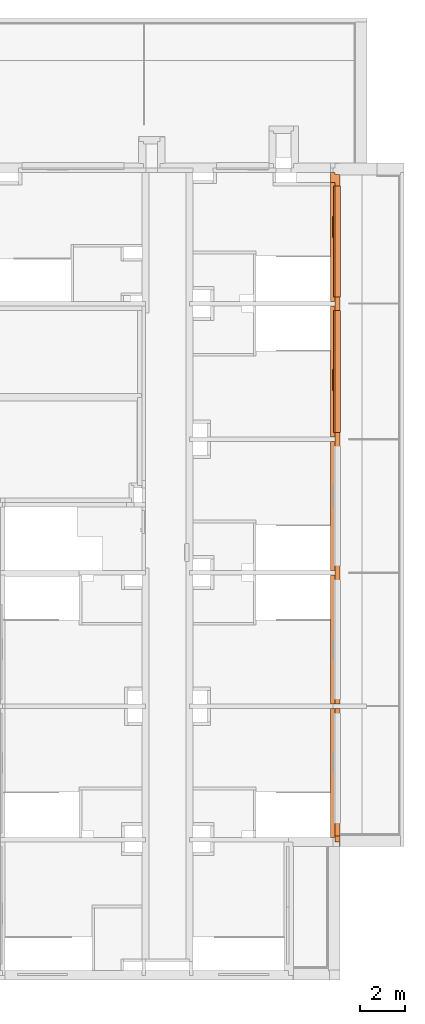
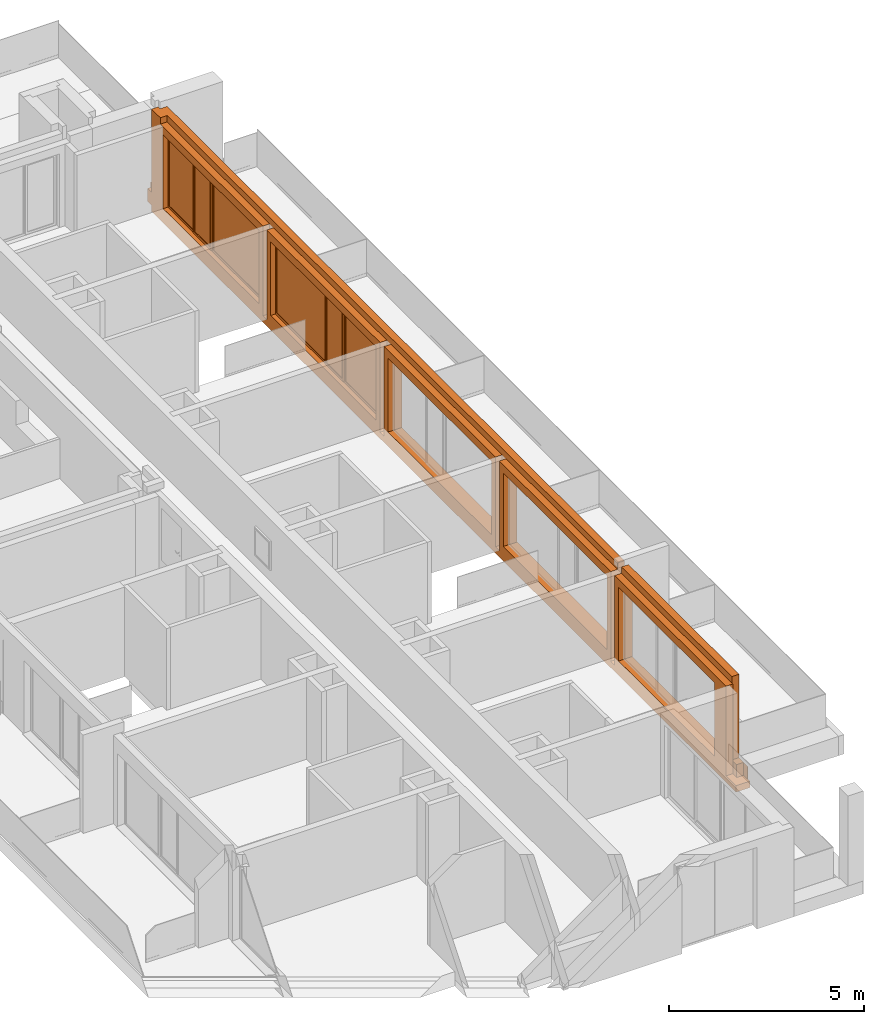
# One storey, part 12 of 30: 3 proxies, 5 openings.
"""IFC2X3 building model written with IfcOpenShell, lengths in millimetres."""

import ifcopenshell
import ifcopenshell.guid

model = None  # the IFC model being written
_history = None  # IfcOwnerHistory: only IFC2X3 demands one
_inside = {}  # id of a spatial element -> (the spatial element, [elements in it])
_under = {}  # id of a project, library or spatial element -> (it, [spatial elements below it])
_declared = {}  # id of a project -> (the project, [libraries it declares])
_typed = {}  # id of a type object -> (the type object, [elements of that type])
_made_of = {}  # id of a material, layer set ... -> (it, [elements and type objects made of it])


def new_model(schema):
    """Start an empty IFC model of exactly this schema.

    Asked for "IFC4X3", IfcOpenShell would pick the latest addendum, in which some entities
    have other attributes; the version numbers below select the first issue.
    IFC2X3 requires an IfcOwnerHistory on every rooted entity: one is made here for all.
    """
    global model, _history
    if schema == "IFC4X3":
        model = ifcopenshell.file(schema_version=(4, 3, 0, 0))
    else:
        model = ifcopenshell.file(schema=schema)
    _inside.clear()
    _under.clear()
    _declared.clear()
    _typed.clear()
    _made_of.clear()
    _history = None
    if model.schema == "IFC2X3":
        org = make("IfcOrganization", Name="unknown")
        user = make(
            "IfcPersonAndOrganization",
            ThePerson=make("IfcPerson", FamilyName="unknown"),
            TheOrganization=org,
        )
        app = make(
            "IfcApplication",
            ApplicationDeveloper=org,
            Version="unknown",
            ApplicationFullName="unknown",
            ApplicationIdentifier="unknown",
        )
        _history = make(
            "IfcOwnerHistory",
            OwningUser=user,
            OwningApplication=app,
            ChangeAction="ADDED",
            CreationDate=0,
        )
    return model


def make(cls, **values):
    """One entity of the class cls with the attributes given. An attribute that is None is left unset."""
    return model.create_entity(
        cls, **{name: value for name, value in values.items() if value is not None}
    )


def entity(cls, *values):
    """Any entity or typed value of the class cls, its attributes in the order of the schema. None: left unset."""
    e = model.create_entity(cls)
    for i, value in enumerate(values):
        if value is not None:
            e[i] = value
    return e


def rooted(cls, **values):
    """An entity with a GlobalId (a new one), such as an element, a storey or a relation."""
    return make(cls, GlobalId=ifcopenshell.guid.new(), OwnerHistory=_history, **values)


def si_unit(unit_type, name, prefix=None):
    """IfcSIUnit, for example si_unit("LENGTHUNIT", "METRE", prefix="MILLI")."""
    return make("IfcSIUnit", UnitType=unit_type, Prefix=prefix, Name=name)


def converted_unit(unit_type, name, factor, base, dimensions=None, offset=None):
    """IfcConversionBasedUnit, such as the inch: factor (a typed value) times the base unit."""
    return make(
        "IfcConversionBasedUnit"
        if offset is None
        else "IfcConversionBasedUnitWithOffset",
        ConversionOffset=offset,
        Dimensions=None
        if dimensions is None
        else entity("IfcDimensionalExponents", *dimensions),
        UnitType=unit_type,
        Name=name,
        ConversionFactor=make(
            "IfcMeasureWithUnit", ValueComponent=factor, UnitComponent=base
        ),
    )


def derived_unit(unit_type, elements):
    """IfcDerivedUnit: a product of units, each with its exponent."""
    return make(
        "IfcDerivedUnit",
        Elements=[
            make("IfcDerivedUnitElement", Unit=unit, Exponent=power)
            for unit, power in elements
        ],
        UnitType=unit_type,
    )


def money_unit(currency):
    """IfcMonetaryUnit."""
    return make("IfcMonetaryUnit", Currency=currency)


def assignment(units):
    """IfcUnitAssignment: the units of a project."""
    return None if units is None else make("IfcUnitAssignment", Units=units)


def point(xyz):
    """IfcCartesianPoint."""
    return None if xyz is None else make("IfcCartesianPoint", Coordinates=xyz)


def direction(xyz):
    """IfcDirection."""
    return None if xyz is None else make("IfcDirection", DirectionRatios=xyz)


def frame(location, z_axis=None, x_axis=None):
    """IfcAxis2Placement3D, a coordinate frame: its origin and axes. An axis left out is left unset."""
    return make(
        "IfcAxis2Placement3D",
        Location=point(location),
        Axis=direction(z_axis),
        RefDirection=direction(x_axis),
    )


def frame_2d(location, x_axis=None):
    """IfcAxis2Placement2D, a coordinate frame in the plane: its origin and x axis."""
    return make(
        "IfcAxis2Placement2D", Location=point(location), RefDirection=direction(x_axis)
    )


def origin_with_axes():
    """The frame at (0, 0, 0) with the z axis (0, 0, 1) and the x axis (1, 0, 0) written out."""
    return frame((0.0, 0.0, 0.0), z_axis=(0.0, 0.0, 1.0), x_axis=(1.0, 0.0, 0.0))


def origin_2d_with_axis():
    """The frame at (0, 0) in the plane with the x axis (1, 0) written out."""
    return frame_2d((0.0, 0.0), x_axis=(1.0, 0.0))


def place(relative_to, where):
    """IfcLocalPlacement: puts the frame where relative to a parent placement (None: the world)."""
    return make(
        "IfcLocalPlacement", PlacementRelTo=relative_to, RelativePlacement=where
    )


def context(
    kind, dimensions, precision=None, world=None, true_north=None, identifier=None
):
    """IfcGeometricRepresentationContext, for example the 3D "Model" context."""
    return make(
        "IfcGeometricRepresentationContext",
        ContextIdentifier=identifier,
        ContextType=kind,
        CoordinateSpaceDimension=dimensions,
        Precision=precision,
        WorldCoordinateSystem=world,
        TrueNorth=true_north,
    )


def subcontext(parent, identifier, kind, view, scale=None):
    """IfcGeometricRepresentationSubContext, for example "Body" below "Model"."""
    return make(
        "IfcGeometricRepresentationSubContext",
        ContextIdentifier=identifier,
        ContextType=kind,
        ParentContext=parent,
        TargetScale=scale,
        TargetView=view,
    )


def project(units=None, contexts=None):
    """IfcProject with its units and contexts."""
    return rooted(
        "IfcProject",
        Name="project",
        RepresentationContexts=contexts,
        UnitsInContext=assignment(units),
    )


def spatial(cls, under=None, at=None, **own):
    """A site, building, storey or space (cls), placed at a placement, below another one or the project."""
    s = rooted(cls, ObjectPlacement=at, **own)
    if under is not None:
        _under.setdefault(under.id(), (under, []))[1].append(s)
    return s


def profile(cls, at=None, kind="AREA", **sizes):
    """A parametric profile (cls). Its sizes go by their IFC names, for example OverallWidth=200.0."""
    return make(cls, ProfileType=kind, Position=at, **sizes)


def rectangle(**sizes):
    """IfcRectangleProfileDef."""
    return profile("IfcRectangleProfileDef", **sizes)


def extrude(swept, where, along, depth):
    """IfcExtrudedAreaSolid: the profile swept, set in the frame where, extruded along a direction by depth."""
    return make(
        "IfcExtrudedAreaSolid",
        SweptArea=swept,
        Position=where,
        ExtrudedDirection=direction(along),
        Depth=depth,
    )


def faces_of(points, faces, orient=None, outer=None):
    """IfcFace entities. A face is a list of loops; a loop is a list of indices into points, from 0.

    orient and outer hold one flag for each loop. By default every Orientation is true, the
    first loop of a face is its IfcFaceOuterBound and the others are IfcFaceBound.
    """
    made = []
    for i, loops in enumerate(faces):
        bounds = []
        for j, loop in enumerate(loops):
            is_outer = j == 0 if outer is None else outer[i][j]
            bounds.append(
                make(
                    "IfcFaceOuterBound" if is_outer else "IfcFaceBound",
                    Bound=make("IfcPolyLoop", Polygon=[points[k] for k in loop]),
                    Orientation=True if orient is None else orient[i][j],
                )
            )
        made.append(make("IfcFace", Bounds=bounds))
    return made


def open_shell(faces, orient=None, outer=None):
    """The faces of one IfcOpenShell. surface_model builds it on its shared points."""
    return ("IfcOpenShell", faces, orient, outer)


def faceted_brep(points, faces, orient=None, outer=None, voids=None):
    """IfcFacetedBrep: a solid bounded by flat faces; with voids (closed shells), ...WithVoids."""
    shared = [point(p) for p in points]
    hull = make("IfcClosedShell", CfsFaces=faces_of(shared, faces, orient, outer))
    if voids is None:
        return make("IfcFacetedBrep", Outer=hull)
    return make(
        "IfcFacetedBrepWithVoids",
        Outer=hull,
        Voids=[
            make(cls, CfsFaces=faces_of(shared, fs, o, b)) for cls, fs, o, b in voids
        ],
    )


def surface_model(cls, points, shells):
    """IfcFaceBasedSurfaceModel or IfcShellBasedSurfaceModel (cls): surfaces that need not close."""
    shared = [point(p) for p in points]
    made = [make(c, CfsFaces=faces_of(shared, fs, o, b)) for c, fs, o, b in shells]
    if cls == "IfcFaceBasedSurfaceModel":
        return make(cls, FbsmFaces=made)
    return make(cls, SbsmBoundary=made)


def shape(context_of_items, identifier, shape_type, items):
    """IfcShapeRepresentation: the items that make up one representation, for example the "Body"."""
    return make(
        "IfcShapeRepresentation",
        ContextOfItems=context_of_items,
        RepresentationIdentifier=identifier,
        RepresentationType=shape_type,
        Items=items,
    )


def material(Name=None, Category=None):
    """IfcMaterial."""
    return make("IfcMaterial", Name=Name, Category=Category)


def material_list(materials):
    """IfcMaterialList."""
    return make("IfcMaterialList", Materials=materials)


def made_of(thing, what):
    """Note that an element or type object is made of a material, layer set ...; save() writes the relation."""
    if what is not None:
        _made_of.setdefault(what.id(), (what, []))[1].append(thing)
    return thing


def type_object(cls, material=None, **own):
    """A type object (cls), such as IfcWallType, which elements share."""
    return made_of(rooted(cls, **own), material)


def element(
    cls,
    number,
    at=None,
    inside=None,
    cuts=None,
    type_object=None,
    material=None,
    context=None,
    identifier="Body",
    shape_type=None,
    held_by="IfcProductDefinitionShape",
    body=None,
    shapes=None,
    **own,
):
    """One element of the class cls, such as IfcWall. Its Tag is "e" and its number.

    at: its placement. inside: the storey or other place that contains it. cuts: it is an
    opening in that element (IfcRelVoidsElement). A single representation is given by context,
    identifier, shape_type and body (its items); several are given by shapes. held_by: the class
    of the entity that holds the representations. save() writes the other relations.
    """
    e = rooted(cls, Tag="e%d" % number, ObjectPlacement=at, **own)
    if body is not None:
        shapes = [shape(context, identifier, shape_type, body)]
    if shapes is not None:
        e.Representation = make(held_by, Representations=shapes)
    if inside is not None:
        _inside.setdefault(inside.id(), (inside, []))[1].append(e)
    if cuts is not None:
        rooted(
            "IfcRelVoidsElement", RelatingBuildingElement=cuts, RelatedOpeningElement=e
        )
    if type_object is not None:
        _typed.setdefault(type_object.id(), (type_object, []))[1].append(e)
    return made_of(e, material)


def fill(opening, filler):
    """IfcRelFillsElement: the door or window that sits in an opening."""
    return rooted(
        "IfcRelFillsElement",
        RelatingOpeningElement=opening,
        RelatedBuildingElement=filler,
    )


def aggregate(whole, parts):
    """IfcRelAggregates: a whole, such as a stair, and the parts it consists of."""
    return rooted("IfcRelAggregates", RelatingObject=whole, RelatedObjects=parts)


def save(model, path):
    """Write the relations noted so far, then the file.

    IfcRelAggregates (storeys below a building ...), IfcRelContainedInSpatialStructure (elements
    in a storey), IfcRelDefinesByType, IfcRelAssociatesMaterial and IfcRelDeclares: one each for
    every whole, place, type object, material and project.
    """
    for whole, parts in _under.values():
        aggregate(whole, parts)
    for where, things in _inside.values():
        rooted(
            "IfcRelContainedInSpatialStructure",
            RelatedElements=things,
            RelatingStructure=where,
        )
    for kind, things in _typed.values():
        rooted("IfcRelDefinesByType", RelatedObjects=things, RelatingType=kind)
    for what, things in _made_of.values():
        rooted("IfcRelAssociatesMaterial", RelatedObjects=things, RelatingMaterial=what)
    for by, libraries in _declared.values():
        rooted("IfcRelDeclares", RelatingContext=by, RelatedDefinitions=libraries)
    model.write(path)


model = new_model("IFC2X3")

# Units and contexts
model_context = context("Model", 3, precision=0.01, world=origin_with_axes(), true_north=direction((0.34421633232, 0.938890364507)))
body_context = subcontext(model_context, "Body", "Model", "MODEL_VIEW")
ifc_project = project(units=[si_unit("LENGTHUNIT", "METRE", prefix="MILLI"), si_unit("AREAUNIT", "SQUARE_METRE"), si_unit("VOLUMEUNIT", "CUBIC_METRE"), converted_unit("PLANEANGLEUNIT", "DEGREE", entity("IfcPlaneAngleMeasure", 0.0174532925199), si_unit("PLANEANGLEUNIT", "RADIAN"), dimensions=[0, 0, 0, 0, 0, 0, 0]), si_unit("SOLIDANGLEUNIT", "STERADIAN"), money_unit("USD"), converted_unit("TIMEUNIT", "Year", entity("IfcTimeMeasure", 31556926.0), si_unit("TIMEUNIT", "SECOND"), dimensions=[0, 0, 1, 0, 0, 0, 0]), si_unit("MASSUNIT", "GRAM", prefix="KILO"), si_unit("THERMODYNAMICTEMPERATUREUNIT", "DEGREE_CELSIUS"), si_unit("LUMINOUSINTENSITYUNIT", "LUMEN"), si_unit("ENERGYUNIT", "JOULE", prefix="MEGA"), derived_unit("THERMALCONDUCTANCEUNIT", [(si_unit("POWERUNIT", "WATT"), 1), (si_unit("LENGTHUNIT", "METRE"), -1), (si_unit("THERMODYNAMICTEMPERATUREUNIT", "KELVIN"), -1)]), derived_unit("SPECIFICHEATCAPACITYUNIT", [(si_unit("ENERGYUNIT", "JOULE"), 1), (si_unit("MASSUNIT", "GRAM", prefix="KILO"), -1), (si_unit("THERMODYNAMICTEMPERATUREUNIT", "KELVIN"), -1)]), derived_unit("MASSDENSITYUNIT", [(si_unit("MASSUNIT", "GRAM", prefix="KILO"), 1), (si_unit("VOLUMEUNIT", "CUBIC_METRE"), -1)])], contexts=[model_context])

# Site, building, storey
site_placement = place(None, origin_with_axes())
site = spatial("IfcSite", under=ifc_project, at=site_placement, Name="USTRONIE MORSKIE", CompositionType="ELEMENT")
building_placement = place(site_placement, origin_with_axes())
building = spatial("IfcBuilding", under=site, at=building_placement, Name="Budynek", CompositionType="ELEMENT")
storey_placement = place(building_placement, frame((0.0, 0.0, 16000.0), z_axis=(0.0, 0.0, 1.0), x_axis=(1.0, 0.0, 0.0)))
storey = spatial("IfcBuildingStorey", under=building, at=storey_placement, Name="ANTRESOLA - KOND. TECHNICZNA", CompositionType="ELEMENT", Elevation=16000.0)

# Proxies, openings
ifc_material_1 = material(Name="Tynk zewnętrzny")
ifc_material_2 = material(Name="Wełna ELEW")
ifc_material_3 = material(Name="Beton konstrukcyjny B25")
ifc_material_list = material_list([ifc_material_1, ifc_material_2, ifc_material_3])
building_element_proxy_type_1 = type_object("IfcBuildingElementProxyType", Name="20+20 410", PredefinedType="NOTDEFINED")
proxy_1_placement = place(storey_placement, frame((424367.920919, 744701.199036, -360.0), z_axis=(0.0, 0.0, 1.0), x_axis=(0.0, -1.0, 0.0)))
proxy_1 = element("IfcBuildingElementProxy", 1, at=proxy_1_placement, inside=storey, type_object=building_element_proxy_type_1, material=ifc_material_list, Name="SZ-01", context=body_context, shape_type="Brep", body=[
    faceted_brep([(29500.0, 310.0, 439.99999792), (-99.9999999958, 310.0, 440.0), (-309.999999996, 310.0, 440.0), (-310.0, 310.0, 600.0), (210.0, 310.0, 600.0), (210.0, 310.0, 3200.0), (23599.9910173, 310.0, 3200.0), (23599.9910956, 310.0, 470.0), (23799.9910956, 310.0, 470.0), (23799.9910173, 310.0, 3200.0), (29440.0, 310.0, 3200.0), (29440.0, 310.0, 600.0), (29900.0, 310.0, 600.0), (29900.0, 310.0, 199.999997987), (29910.0, 310.0, 199.999997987), (30010.0, 310.0, 199.999997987), (30010.0, 310.0, 0.0), (29500.0, 310.0, -2.07958272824e-06), (29500.0, 310.0, 199.99999792), (29500.0, 310.0, 204.99999792), (29500.0, 310.0, 354.99999792), (29500.0, 310.0, 414.99999792), (-309.999999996, 300.0, 440.0), (29500.0, 300.0, 439.99999792), (-310.0, 300.0, 600.0), (210.0, 300.0, 600.0), (210.0, 300.0, 3200.0), (23599.9910173, 300.0, 3200.0), (23599.9910962, 300.0, 470.0), (23799.9910962, 300.0, 470.0), (23799.9910173, 300.0, 3200.0), (29440.0, 300.0, 3200.0), (29440.0, 300.0, 600.0), (29900.0, 300.0, 600.0), (29900.0, 300.0, 199.999997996), (29910.0, 300.0, 199.999997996), (30010.0, 300.0, 199.999997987), (30010.0, 300.0, 0.0), (29500.0, 300.0, -2.07958272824e-06), (29500.0, 300.0, 199.99999792), (29500.0, 300.0, 204.99999792), (29500.0, 300.0, 354.99999792), (29500.0, 300.0, 414.99999792)], [[[0, 1, 2, 3, 4, 5, 6, 7, 8, 9, 10, 11, 12, 13, 14, 15, 16, 17, 18, 19, 20, 21]], [[22, 2, 1, 0, 23]], [[2, 22, 24, 3]], [[24, 25, 4, 3]], [[25, 26, 5, 4]], [[6, 5, 26, 27]], [[27, 28, 7, 6]], [[29, 8, 7, 28]], [[9, 8, 29, 30]], [[30, 31, 10, 9]], [[11, 10, 31, 32]], [[33, 12, 11, 32]], [[13, 12, 33, 34]], [[35, 14, 13, 34]], [[15, 14, 35, 36]], [[37, 16, 15, 36]], [[38, 17, 16, 37]], [[39, 18, 17, 38]], [[40, 19, 18, 39]], [[41, 20, 19, 40]], [[42, 21, 20, 41]], [[0, 21, 42, 23]], [[23, 42, 41, 40, 39, 38, 37, 36, 35, 34, 33, 32, 31, 30, 29, 28, 27, 26, 25, 24, 22]]]),
    faceted_brep([(29500.0, 300.0, 414.99999792), (29500.0, 300.0, 439.99999792), (-299.999999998, 300.0, 439.99999792), (-300.0, 300.0, 600.0), (200.0, 300.0, 600.0), (200.0, 300.0, 3200.0), (23599.9910173, 300.0, 3200.0), (23599.9910962, 300.0, 470.0), (23799.9910962, 300.0, 470.0), (23799.9910173, 300.0, 3200.0), (29450.0, 300.0, 3200.0), (29450.0, 300.0, 600.0), (29700.0, 300.0, 600.0), (29700.0, 300.0, 199.999997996), (29910.0, 300.0, 199.999997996), (30010.0, 300.0, 199.999997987), (30010.0, 300.0, 0.0), (29500.0, 300.0, -2.07958272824e-06), (29500.0, 300.0, 199.99999792), (29500.0, 300.0, 204.99999792), (29500.0, 300.0, 354.99999792), (29500.0, 99.9999999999, 414.99999792), (29500.0, 99.9999999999, 439.99999792), (-299.999999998, 100.0, 439.99999792), (-99.9999999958, 99.9999999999, 439.99999792), (-300.0, 100.0, 600.0), (200.0, 100.0, 600.0), (200.0, 100.0, 3200.0), (23599.9910173, 100.0, 3200.0), (23599.9911094, 100.0, 470.0), (23799.9911094, 100.0, 470.0), (23799.9910173, 100.0, 3200.0), (29450.0, 100.0, 3200.0), (29450.0, 100.0, 600.0), (29700.0, 100.0, 600.0), (29700.0, 100.0, 199.999998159), (29910.0, 100.0, 199.999998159), (30010.0, 100.0, 199.999997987), (30010.0, 100.0, 0.0), (29500.0, 99.9999999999, -2.07958272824e-06), (29500.0, 99.9999999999, 199.99999792), (29500.0, 99.9999999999, 204.99999792), (29500.0, 99.9999999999, 354.99999792)], [[[0, 1, 2, 3, 4, 5, 6, 7, 8, 9, 10, 11, 12, 13, 14, 15, 16, 17, 18, 19, 20]], [[1, 0, 21, 22]], [[23, 2, 1, 22, 24]], [[2, 23, 25, 3]], [[25, 26, 4, 3]], [[26, 27, 5, 4]], [[6, 5, 27, 28]], [[28, 29, 7, 6]], [[30, 8, 7, 29]], [[9, 8, 30, 31]], [[31, 32, 10, 9]], [[11, 10, 32, 33]], [[34, 12, 11, 33]], [[13, 12, 34, 35]], [[14, 13, 35, 36]], [[15, 14, 36, 37]], [[38, 16, 15, 37]], [[39, 17, 16, 38]], [[40, 18, 17, 39]], [[41, 19, 18, 40]], [[42, 20, 19, 41]], [[21, 0, 20, 42]], [[22, 21, 42, 41, 40, 39, 38, 37, 36, 35, 34, 33, 32, 31, 30, 29, 28, 27, 26, 25, 23, 24]]]),
    faceted_brep([(23799.9910111, -100.0, 3000.0), (23799.9910234, 100.0, 3000.0), (23799.9911094, 100.0, 200.0), (23799.9909252, -100.0, 200.0), (29500.0, 100.0, 3000.0), (29500.0, -100.0, 3000.0), (29500.0, 0.0, 3000.0), (550.000000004, 100.0, 3000.0), (5799.99390061, 100.0, 3000.0), (5799.99390061, 100.0, 200.0), (5999.99390061, 100.0, 200.0), (5999.99390061, 100.0, 3000.0), (11800.0, 100.0, 3000.0), (11800.0, 100.0, 200.0), (12000.0, 100.0, 200.0), (12000.0, 100.0, 3000.0), (17700.0, 100.0, 3000.0), (17700.0, 100.0, 200.0), (17900.0, 100.0, 200.0), (17900.0, 100.0, 3000.0), (23599.9910234, 100.0, 3000.0), (23599.9911094, 100.0, 200.0), (29500.0, 100.0, 199.999998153), (29910.0, 100.0, 199.999998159), (30010.0, 100.0, 199.999997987), (30010.0, 100.0, 0.0), (100.000000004, 100.0, 0.0), (100.000000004, 100.0, 200.0), (-99.999999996, 100.0, 200.0), (-100.0, 100.0, 600.0), (99.9999999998, 100.0, 600.0), (99.9999999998, 100.0, 3200.0), (550.000000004, 100.0, 3200.0), (23599.9909252, -100.0, 200.0), (550.000000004, -100.0, 3000.0), (550.000000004, -100.0, 3200.0), (99.9999999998, -100.0, 3200.0), (99.9999999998, -100.0, 600.0), (-100.0, -100.0, 600.0), (-99.999999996, -100.0, 200.0), (100.000000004, -100.0, 200.0), (100.000000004, -100.0, 0.0), (30010.0, -100.0, 0.0), (30010.0, -100.0, 199.999997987), (29910.0, -100.0, 199.999998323), (29500.0, -100.0, 199.99999831), (29500.0, -100.0, 600.0), (23599.9910111, -100.0, 3000.0), (17900.0, -100.0, 3000.0), (17900.0, -100.0, 200.0), (17700.0, -100.0, 200.0), (17700.0, -100.0, 3000.0), (12000.0, -100.0, 3000.0), (12000.0, -100.0, 200.0), (11800.0, -100.0, 200.0), (11800.0, -100.0, 3000.0), (5999.99390061, -100.0, 3000.0), (5999.99390061, -100.0, 200.0), (5799.99390061, -100.0, 200.0), (5799.99390061, -100.0, 3000.0), (29500.0, 0.0, 600.0)], [[[0, 1, 2, 3]], [[4, 1, 0, 5, 6]], [[7, 8, 9, 10, 11, 12, 13, 14, 15, 16, 17, 18, 19, 20, 21, 2, 1, 4, 22, 23, 24, 25, 26, 27, 28, 29, 30, 31, 32]], [[3, 2, 21, 33]], [[34, 35, 36, 37, 38, 39, 40, 41, 42, 43, 44, 45, 46, 5, 0, 3, 33, 47, 48, 49, 50, 51, 52, 53, 54, 55, 56, 57, 58, 59]], [[46, 60, 6, 5]], [[60, 46, 45, 22, 4, 6]], [[8, 7, 34, 59]], [[8, 59, 58, 9]], [[57, 10, 9, 58]], [[56, 11, 10, 57]], [[12, 11, 56, 55]], [[12, 55, 54, 13]], [[53, 14, 13, 54]], [[52, 15, 14, 53]], [[16, 15, 52, 51]], [[16, 51, 50, 17]], [[49, 18, 17, 50]], [[48, 19, 18, 49]], [[20, 19, 48, 47]], [[20, 47, 33, 21]], [[23, 22, 45, 44]], [[24, 23, 44, 43]], [[42, 25, 24, 43]], [[42, 41, 26, 25]], [[40, 27, 26, 41]], [[40, 39, 28, 27]], [[39, 38, 29, 28]], [[37, 30, 29, 38]], [[37, 36, 31, 30]], [[35, 32, 31, 36]], [[7, 32, 35, 34]]]),
])
opening_1_placement = place(proxy_1_placement, frame((3150.00011999, 0.0, 450.0), z_axis=(0.0, 0.0, 1.0), x_axis=(1.0, 0.0, 0.0)))
opening_1 = element("IfcOpeningElement", 2, at=opening_1_placement, cuts=proxy_1, Name="Wz.06", context=body_context, shape_type="SweptSolid", body=[
    extrude(rectangle(XDim=4900.00023997, YDim=2300.0, at=origin_2d_with_axis()), frame((0.0, 100.0, 1150.0), z_axis=(0.0, -1.0, 0.0), x_axis=(-1.0, 0.0, 0.0)), (0.0, 0.0, -1.0), 620.0),
    extrude(rectangle(XDim=4900.00023997, YDim=2300.0, at=origin_2d_with_axis()), frame((0.0, 100.0, 1150.0), z_axis=(0.0, 1.0, 0.0), x_axis=(-1.0, 0.0, 0.0)), (0.0, 0.0, -1.0), 610.0),
])
opening_2_placement = place(proxy_1_placement, frame((8899.99378063, 0.0, 450.0), z_axis=(0.0, 0.0, 1.0), x_axis=(1.0, 0.0, 0.0)))
opening_2 = element("IfcOpeningElement", 3, at=opening_2_placement, cuts=proxy_1, Name="Wz.06", context=body_context, shape_type="SweptSolid", body=[
    extrude(rectangle(XDim=5400.01243876, YDim=2300.0, at=origin_2d_with_axis()), frame((0.0, 100.0, 1150.0), z_axis=(0.0, 1.0, 0.0), x_axis=(1.0, 0.0, 0.0)), (0.0, 0.0, 1.0), 620.0),
    extrude(rectangle(XDim=5400.01243876, YDim=2300.0, at=origin_2d_with_axis()), frame((0.0, 100.0, 1150.0), z_axis=(0.0, -1.0, 0.0), x_axis=(1.0, 0.0, 0.0)), (0.0, 0.0, 1.0), 610.0),
])
opening_3_placement = place(proxy_1_placement, frame((14849.9998966, 0.0, 450.0), z_axis=(0.0, 0.0, 1.0), x_axis=(1.0, 0.0, 0.0)))
element("IfcOpeningElement", 4, at=opening_3_placement, cuts=proxy_1, Name="Wz.06", context=body_context, shape_type="SweptSolid", body=[
    extrude(rectangle(XDim=5299.99979318, YDim=2300.0, at=origin_2d_with_axis()), frame((0.0, 100.0, 1150.0), z_axis=(0.0, -1.0, 0.0), x_axis=(-1.0, 0.0, 0.0)), (0.0, 0.0, -1.0), 620.0),
    extrude(rectangle(XDim=5299.99979318, YDim=2300.0, at=origin_2d_with_axis()), frame((0.0, 100.0, 1150.0), z_axis=(0.0, 1.0, 0.0), x_axis=(-1.0, 0.0, 0.0)), (0.0, 0.0, -1.0), 610.0),
])
opening_4_placement = place(proxy_1_placement, frame((20750.0001034, 0.0, 450.0), z_axis=(0.0, 0.0, 1.0), x_axis=(1.0, 0.0, 0.0)))
element("IfcOpeningElement", 5, at=opening_4_placement, cuts=proxy_1, Name="Wz.06", context=body_context, shape_type="SweptSolid", body=[
    extrude(rectangle(XDim=5299.99979318, YDim=2300.0, at=origin_2d_with_axis()), frame((0.0, 100.0, 1150.0), z_axis=(0.0, 1.0, 0.0), x_axis=(1.0, 0.0, 0.0)), (0.0, 0.0, 1.0), 620.0),
    extrude(rectangle(XDim=5299.99979318, YDim=2300.0, at=origin_2d_with_axis()), frame((0.0, 100.0, 1150.0), z_axis=(0.0, -1.0, 0.0), x_axis=(1.0, 0.0, 0.0)), (0.0, 0.0, 1.0), 610.0),
])
opening_5_placement = place(proxy_1_placement, frame((26449.9910173, 0.0, 450.0), z_axis=(0.0, 0.0, 1.0), x_axis=(1.0, 0.0, 0.0)))
element("IfcOpeningElement", 6, at=opening_5_placement, cuts=proxy_1, Name="Wz.06", context=body_context, shape_type="SweptSolid", body=[
    extrude(rectangle(XDim=4900.01796547, YDim=2300.0, at=origin_2d_with_axis()), frame((0.0, 100.0, 1150.0), z_axis=(0.0, -1.0, 0.0), x_axis=(-1.0, 0.0, 0.0)), (0.0, 0.0, -1.0), 620.0),
    extrude(rectangle(XDim=4900.01796547, YDim=2300.0, at=origin_2d_with_axis()), frame((0.0, 100.0, 1150.0), z_axis=(0.0, 1.0, 0.0), x_axis=(-1.0, 0.0, 0.0)), (0.0, 0.0, -1.0), 610.0),
])
building_element_proxy_type_2 = type_object("IfcBuildingElementProxyType", Name="Okno potrójne 23", PredefinedType="NOTDEFINED")
proxy_2_placement = place(opening_1_placement, frame((2450.00011999, 0.0, 0.0), z_axis=(0.0, 0.0, 1.0), x_axis=(-1.0, 0.0, 0.0)))
proxy_2 = element("IfcBuildingElementProxy", 7, at=proxy_2_placement, inside=storey, type_object=building_element_proxy_type_2, Name="Wz.06", context=body_context, shape_type="SurfaceModel", body=[
    faceted_brep([(0.0, -100.0, 5.0), (0.0, -310.0, 5.0), (0.0, -310.0, 18.9943663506), (0.0, -100.0, 30.0), (4900.00023997, -100.0, 5.0), (4900.00023997, -310.0, 5.0), (4900.00023997, -340.0, 5.0), (0.0, -340.0, 5.0), (0.0, -340.0, 17.4221329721), (4900.00023997, -340.0, 17.4221329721), (4900.00023997, -310.0, 18.9943663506), (4900.00023997, -100.0, 30.0)], [[[0, 1, 2, 3]], [[0, 4, 5, 6, 7, 1]], [[1, 7, 8, 2]], [[3, 2, 8, 9, 10, 11]], [[4, 0, 3, 11]], [[5, 4, 11, 10]], [[6, 5, 10, 9]], [[7, 6, 9, 8]]]),
    faceted_brep([(0.0, -100.0, 0.0), (0.0, -310.0, 0.0), (0.0, -310.0, 5.0), (0.0, -100.0, 5.0), (4900.00023997, -100.0, 0.0), (4900.00023997, -310.0, 0.0), (4900.00023997, -310.0, 5.0), (4900.00023997, -100.0, 5.0)], [[[0, 1, 2, 3]], [[0, 4, 5, 1]], [[1, 5, 6, 2]], [[3, 2, 6, 7]], [[4, 0, 3, 7]], [[5, 4, 7, 6]]]),
    faceted_brep([(3522.50043631, -59.9999999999, 2230.0), (3522.50043631, -100.0, 2230.0), (3587.50043631, -100.0, 2230.0), (3587.50043631, -35.0, 2230.0), (3547.50043631, -35.0, 2230.0), (3547.50043631, -59.9999999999, 2230.0), (3522.50043631, -59.9999999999, 70.0), (3522.50043631, -100.0, 70.0), (3587.50043631, -100.0, 70.0), (3587.50043631, -35.0, 70.0), (3547.50043631, -35.0, 70.0), (3547.50043631, -59.9999999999, 70.0)], [[[0, 1, 2, 3, 4, 5]], [[6, 7, 1, 0]], [[8, 2, 1, 7]], [[9, 3, 2, 8]], [[4, 3, 9, 10]], [[10, 11, 5, 4]], [[5, 11, 6, 0]], [[11, 10, 9, 8, 7, 6]]]),
    faceted_brep([(2612.50043631, -35.0, 2230.0), (2572.50043631, -35.0, 2230.0), (2572.50043631, -100.0, 2230.0), (2637.50043631, -100.0, 2230.0), (2637.50043631, -59.9999999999, 2230.0), (2612.50043631, -59.9999999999, 2230.0), (2612.50043631, -35.0, 70.0), (2572.50043631, -35.0, 70.0), (2572.50043631, -100.0, 70.0), (2637.50043631, -100.0, 70.0), (2637.50043631, -59.9999999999, 70.0), (2612.50043631, -59.9999999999, 70.0)], [[[0, 1, 2, 3, 4, 5]], [[6, 7, 1, 0]], [[1, 7, 8, 2]], [[2, 8, 9, 3]], [[4, 3, 9, 10]], [[10, 11, 5, 4]], [[5, 11, 6, 0]], [[11, 10, 9, 8, 7, 6]]]),
    faceted_brep([(3522.50043631, -59.9999999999, 70.0), (3522.50043631, -100.0, 70.0), (3587.50043631, -100.0, 70.0), (3587.50043631, -35.0, 70.0), (3547.50043631, -35.0, 70.0), (3547.50043631, -59.9999999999, 70.0), (2637.50043631, -59.9999999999, 70.0), (2637.50043631, -100.0, 70.0), (0.0, -100.0, 70.0), (0.0, -100.0, 0.0), (4900.00023997, -100.0, 0.0), (4900.00023997, -100.0, 70.0), (4830.00023997, -100.0, 70.0), (2572.50043631, -100.0, 70.0), (70.0000000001, -100.0, 70.0), (4830.00023997, -35.0, 70.0), (2612.50043631, -35.0, 45.0), (3547.50043631, -35.0, 45.0), (4900.00023997, -35.0, 70.0), (4900.00023997, -35.0, 0.0), (0.0, -35.0, 0.0), (0.0, -35.0, 70.0), (70.0000000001, -35.0, 70.0), (2572.50043631, -35.0, 70.0), (2612.50043631, -35.0, 70.0), (3547.50043631, -59.9999999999, 45.0), (2612.50043631, -59.9999999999, 45.0), (2612.50043631, -59.9999999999, 70.0)], [[[0, 1, 2, 3, 4, 5]], [[6, 7, 1, 0]], [[8, 9, 10, 11, 12, 2, 1, 7, 13, 14]], [[15, 3, 2, 12]], [[16, 17, 4, 3, 15, 18, 19, 20, 21, 22, 23, 24]], [[17, 25, 5, 4]], [[5, 25, 26, 27, 6, 0]], [[27, 24, 23, 13, 7, 6]], [[21, 20, 9, 8]], [[20, 19, 10, 9]], [[19, 18, 11, 10]], [[18, 15, 12, 11]], [[23, 22, 14, 13]], [[22, 21, 8, 14]], [[16, 26, 25, 17]], [[27, 26, 16, 24]]]),
    faceted_brep([(2612.50043631, -35.0, 2230.0), (2572.50043631, -35.0, 2230.0), (70.0000000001, -35.0, 2230.0), (0.0, -35.0, 2230.0), (0.0, -35.0, 2300.0), (4900.00023997, -35.0, 2300.0), (4900.00023997, -35.0, 2230.0), (4830.00023997, -35.0, 2230.0), (3587.50043631, -35.0, 2230.0), (3547.50043631, -35.0, 2230.0), (3547.50043631, -35.0, 2255.0), (2612.50043631, -35.0, 2255.0), (2612.50043631, -59.9999999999, 2230.0), (2637.50043631, -59.9999999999, 2230.0), (2637.50043631, -100.0, 2230.0), (2572.50043631, -100.0, 2230.0), (70.0000000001, -100.0, 2230.0), (0.0, -100.0, 2230.0), (0.0, -100.0, 2300.0), (4900.00023997, -100.0, 2300.0), (4900.00023997, -100.0, 2230.0), (4830.00023997, -100.0, 2230.0), (3587.50043631, -100.0, 2230.0), (3547.50043631, -59.9999999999, 2230.0), (3522.50043631, -100.0, 2230.0), (3522.50043631, -59.9999999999, 2230.0), (3547.50043631, -59.9999999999, 2255.0), (2612.50043631, -59.9999999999, 2255.0)], [[[0, 1, 2, 3, 4, 5, 6, 7, 8, 9, 10, 11]], [[12, 13, 14, 15, 1, 0]], [[2, 1, 15, 16]], [[3, 2, 16, 17]], [[4, 3, 17, 18]], [[5, 4, 18, 19]], [[6, 5, 19, 20]], [[7, 6, 20, 21]], [[8, 7, 21, 22]], [[23, 9, 8, 22, 24, 25]], [[9, 23, 26, 10]], [[10, 26, 27, 11]], [[11, 27, 12, 0]], [[25, 13, 12, 27, 26, 23]], [[25, 24, 14, 13]], [[14, 24, 22, 21, 20, 19, 18, 17, 16, 15]]]),
    faceted_brep([(70.0000000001, -100.0, 2230.0), (70.0000000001, -35.0, 2230.0), (0.0, -35.0, 2230.0), (0.0, -100.0, 2230.0), (70.0000000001, -100.0, 70.0), (70.0000000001, -35.0, 70.0), (0.0, -35.0, 70.0), (0.0, -100.0, 70.0)], [[[0, 1, 2, 3]], [[4, 5, 1, 0]], [[1, 5, 6, 2]], [[3, 2, 6, 7]], [[0, 3, 7, 4]], [[7, 6, 5, 4]]]),
    faceted_brep([(4830.00023997, -100.0, 70.0), (4830.00023997, -35.0, 70.0), (4900.00023997, -35.0, 70.0), (4900.00023997, -100.0, 70.0), (4830.00023997, -100.0, 2230.0), (4830.00023997, -35.0, 2230.0), (4900.00023997, -35.0, 2230.0), (4900.00023997, -100.0, 2230.0)], [[[0, 1, 2, 3]], [[4, 5, 1, 0]], [[1, 5, 6, 2]], [[3, 2, 6, 7]], [[0, 3, 7, 4]], [[7, 6, 5, 4]]]),
    surface_model("IfcShellBasedSurfaceModel", [(70.0000000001, -70.0, 70.0), (2572.50043631, -70.0, 70.0), (2572.50043631, -70.0, 2230.0), (70.0000000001, -70.0, 2230.0)], [open_shell([[[0, 1, 2, 3]]])]),
    surface_model("IfcShellBasedSurfaceModel", [(70.0000000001, -50.0, 70.0), (70.0000000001, -50.0, 2230.0), (2572.50043631, -50.0, 2230.0), (2572.50043631, -50.0, 70.0)], [open_shell([[[0, 1, 2, 3]]])]),
    faceted_brep([(2677.50043631, -59.9999999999, 2190.0), (2677.50043631, 5.00000000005, 2190.0), (2612.50043631, 5.00000000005, 2190.0), (2612.50043631, -59.9999999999, 2190.0), (2677.50043631, -59.9999999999, 110.0), (2677.50043631, 5.00000000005, 110.0), (2612.50043631, 5.00000000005, 110.0), (2612.50043631, -59.9999999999, 110.0)], [[[0, 1, 2, 3]], [[4, 5, 1, 0]], [[1, 5, 6, 2]], [[3, 2, 6, 7]], [[0, 3, 7, 4]], [[7, 6, 5, 4]]]),
    faceted_brep([(3482.50043631, -59.9999999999, 110.0), (3482.50043631, 5.00000000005, 110.0), (3547.50043631, 5.00000000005, 110.0), (3547.50043631, -59.9999999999, 110.0), (3482.50043631, -59.9999999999, 2190.0), (3482.50043631, 5.00000000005, 2190.0), (3547.50043631, 5.00000000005, 2190.0), (3547.50043631, -59.9999999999, 2190.0)], [[[0, 1, 2, 3]], [[4, 5, 1, 0]], [[1, 5, 6, 2]], [[3, 2, 6, 7]], [[0, 3, 7, 4]], [[7, 6, 5, 4]]]),
    faceted_brep([(3547.50043631, -59.9999999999, 45.0), (3547.50043631, 5.00000000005, 45.0), (3547.50043631, 5.00000000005, 110.0), (3547.50043631, -59.9999999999, 110.0), (2612.50043631, -59.9999999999, 45.0), (2612.50043631, 5.00000000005, 45.0), (2612.50043631, 5.00000000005, 110.0), (2677.50043631, 5.00000000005, 110.0), (3482.50043631, 5.00000000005, 110.0), (3482.50043631, -59.9999999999, 110.0), (2677.50043631, -59.9999999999, 110.0), (2612.50043631, -59.9999999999, 110.0)], [[[0, 1, 2, 3]], [[4, 5, 1, 0]], [[1, 5, 6, 7, 8, 2]], [[3, 2, 8, 9]], [[0, 3, 9, 10, 11, 4]], [[11, 6, 5, 4]], [[10, 7, 6, 11]], [[9, 8, 7, 10]]]),
    faceted_brep([(2612.50043631, -59.9999999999, 2255.0), (2612.50043631, 5.00000000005, 2255.0), (2612.50043631, 5.00000000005, 2190.0), (2612.50043631, -59.9999999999, 2190.0), (3547.50043631, -59.9999999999, 2255.0), (3547.50043631, 5.00000000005, 2255.0), (3547.50043631, 5.00000000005, 2190.0), (3482.50043631, 5.00000000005, 2190.0), (2677.50043631, 5.00000000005, 2190.0), (2677.50043631, -59.9999999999, 2190.0), (3482.50043631, -59.9999999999, 2190.0), (3547.50043631, -59.9999999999, 2190.0)], [[[0, 1, 2, 3]], [[4, 5, 1, 0]], [[1, 5, 6, 7, 8, 2]], [[3, 2, 8, 9]], [[0, 3, 9, 10, 11, 4]], [[11, 6, 5, 4]], [[10, 7, 6, 11]], [[9, 8, 7, 10]]]),
    surface_model("IfcShellBasedSurfaceModel", [(2677.50043631, -37.5, 110.0), (3482.50043631, -37.5, 110.0), (3482.50043631, -37.5, 2190.0), (2677.50043631, -37.5, 2190.0)], [open_shell([[[0, 1, 2, 3]]])]),
    surface_model("IfcShellBasedSurfaceModel", [(2677.50043631, -17.5, 110.0), (2677.50043631, -17.5, 2190.0), (3482.50043631, -17.5, 2190.0), (3482.50043631, -17.5, 110.0)], [open_shell([[[0, 1, 2, 3]]])]),
    surface_model("IfcShellBasedSurfaceModel", [(3587.50043631, -70.0, 70.0), (4830.00023997, -70.0, 70.0), (4830.00023997, -70.0, 2230.0), (3587.50043631, -70.0, 2230.0)], [open_shell([[[0, 1, 2, 3]]])]),
    surface_model("IfcShellBasedSurfaceModel", [(3587.50043631, -50.0, 70.0), (3587.50043631, -50.0, 2230.0), (4830.00023997, -50.0, 2230.0), (4830.00023997, -50.0, 70.0)], [open_shell([[[0, 1, 2, 3]]])]),
])
fill(opening_1, proxy_2)
proxy_3_placement = place(opening_2_placement, frame((2700.00621938, 0.0, 0.0), z_axis=(0.0, 0.0, 1.0), x_axis=(-1.0, 0.0, 0.0)))
proxy_3 = element("IfcBuildingElementProxy", 8, at=proxy_3_placement, inside=storey, type_object=building_element_proxy_type_2, Name="Wz.06", context=body_context, shape_type="SurfaceModel", body=[
    faceted_brep([(5400.01243876, -100.0, 5.0), (5400.01243876, -100.0, 30.0), (5400.01243876, -310.0, 18.9943663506), (5400.01243876, -310.0, 5.0), (0.0, -100.0, 5.0), (0.0, -100.0, 30.0), (0.0, -310.0, 18.9943663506), (0.0, -340.0, 17.4221329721), (5400.01243876, -340.0, 17.4221329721), (5400.01243876, -340.0, 5.0), (0.0, -340.0, 5.0), (0.0, -310.0, 5.0)], [[[0, 1, 2, 3]], [[4, 5, 1, 0]], [[1, 5, 6, 7, 8, 2]], [[3, 2, 8, 9]], [[0, 3, 9, 10, 11, 4]], [[11, 6, 5, 4]], [[10, 7, 6, 11]], [[9, 8, 7, 10]]]),
    faceted_brep([(5400.01243876, -100.0, 0.0), (5400.01243876, -100.0, 5.0), (5400.01243876, -310.0, 5.0), (5400.01243876, -310.0, 0.0), (0.0, -100.0, 0.0), (0.0, -100.0, 5.0), (0.0, -310.0, 5.0), (0.0, -310.0, 0.0)], [[[0, 1, 2, 3]], [[4, 5, 1, 0]], [[1, 5, 6, 2]], [[3, 2, 6, 7]], [[0, 3, 7, 4]], [[7, 6, 5, 4]]]),
    faceted_brep([(1877.5, -59.9999999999, 2230.0), (1852.5, -59.9999999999, 2230.0), (1852.5, -35.0, 2230.0), (1812.5, -35.0, 2230.0), (1812.5, -100.0, 2230.0), (1877.5, -100.0, 2230.0), (1877.5, -59.9999999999, 70.0), (1852.5, -59.9999999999, 70.0), (1852.5, -35.0, 70.0), (1812.5, -35.0, 70.0), (1812.5, -100.0, 70.0), (1877.5, -100.0, 70.0)], [[[0, 1, 2, 3, 4, 5]], [[1, 0, 6, 7]], [[8, 2, 1, 7]], [[2, 8, 9, 3]], [[9, 10, 4, 3]], [[10, 11, 5, 4]], [[6, 0, 5, 11]], [[7, 6, 11, 10, 9, 8]]]),
    faceted_brep([(2787.5, -35.0, 2230.0), (2787.5, -59.9999999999, 2230.0), (2762.5, -59.9999999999, 2230.0), (2762.5, -100.0, 2230.0), (2827.5, -100.0, 2230.0), (2827.5, -35.0, 2230.0), (2787.5, -35.0, 70.0), (2787.5, -59.9999999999, 70.0), (2762.5, -59.9999999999, 70.0), (2762.5, -100.0, 70.0), (2827.5, -100.0, 70.0), (2827.5, -35.0, 70.0)], [[[0, 1, 2, 3, 4, 5]], [[1, 0, 6, 7]], [[8, 2, 1, 7]], [[2, 8, 9, 3]], [[4, 3, 9, 10]], [[5, 4, 10, 11]], [[6, 0, 5, 11]], [[7, 6, 11, 10, 9, 8]]]),
    faceted_brep([(1877.5, -59.9999999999, 70.0), (1852.5, -59.9999999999, 70.0), (1852.5, -35.0, 70.0), (1812.5, -35.0, 70.0), (1812.5, -100.0, 70.0), (1877.5, -100.0, 70.0), (2762.5, -59.9999999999, 70.0), (2787.5, -59.9999999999, 70.0), (2787.5, -59.9999999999, 45.0), (1852.5, -59.9999999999, 45.0), (1852.5, -35.0, 45.0), (2787.5, -35.0, 45.0), (2787.5, -35.0, 70.0), (2827.5, -35.0, 70.0), (5330.01243876, -35.0, 70.0), (5400.01243876, -35.0, 70.0), (5400.01243876, -35.0, 0.0), (0.0, -35.0, 0.0), (0.0, -35.0, 70.0), (70.0000000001, -35.0, 70.0), (70.0000000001, -100.0, 70.0), (5400.01243876, -100.0, 70.0), (5330.01243876, -100.0, 70.0), (2827.5, -100.0, 70.0), (2762.5, -100.0, 70.0), (0.0, -100.0, 70.0), (0.0, -100.0, 0.0), (5400.01243876, -100.0, 0.0)], [[[0, 1, 2, 3, 4, 5]], [[1, 0, 6, 7, 8, 9]], [[10, 2, 1, 9]], [[11, 12, 13, 14, 15, 16, 17, 18, 19, 3, 2, 10]], [[19, 20, 4, 3]], [[21, 22, 23, 24, 5, 4, 20, 25, 26, 27]], [[6, 0, 5, 24]], [[7, 6, 24, 23, 13, 12]], [[7, 12, 11, 8]], [[11, 10, 9, 8]], [[13, 23, 22, 14]], [[14, 22, 21, 15]], [[15, 21, 27, 16]], [[16, 27, 26, 17]], [[17, 26, 25, 18]], [[18, 25, 20, 19]]]),
    faceted_brep([(2787.5, -35.0, 2230.0), (2787.5, -35.0, 2255.0), (1852.5, -35.0, 2255.0), (1852.5, -35.0, 2230.0), (1812.5, -35.0, 2230.0), (70.0000000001, -35.0, 2230.0), (0.0, -35.0, 2230.0), (0.0, -35.0, 2300.0), (5400.01243876, -35.0, 2300.0), (5400.01243876, -35.0, 2230.0), (5330.01243876, -35.0, 2230.0), (2827.5, -35.0, 2230.0), (2787.5, -59.9999999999, 2230.0), (2787.5, -59.9999999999, 2255.0), (1852.5, -59.9999999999, 2255.0), (1852.5, -59.9999999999, 2230.0), (1877.5, -59.9999999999, 2230.0), (1877.5, -100.0, 2230.0), (1812.5, -100.0, 2230.0), (70.0000000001, -100.0, 2230.0), (0.0, -100.0, 2230.0), (0.0, -100.0, 2300.0), (5400.01243876, -100.0, 2300.0), (5400.01243876, -100.0, 2230.0), (5330.01243876, -100.0, 2230.0), (2827.5, -100.0, 2230.0), (2762.5, -100.0, 2230.0), (2762.5, -59.9999999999, 2230.0)], [[[0, 1, 2, 3, 4, 5, 6, 7, 8, 9, 10, 11]], [[1, 0, 12, 13]], [[2, 1, 13, 14]], [[3, 2, 14, 15]], [[15, 16, 17, 18, 4, 3]], [[4, 18, 19, 5]], [[5, 19, 20, 6]], [[6, 20, 21, 7]], [[7, 21, 22, 8]], [[8, 22, 23, 9]], [[9, 23, 24, 10]], [[10, 24, 25, 11]], [[12, 0, 11, 25, 26, 27]], [[16, 15, 14, 13, 12, 27]], [[16, 27, 26, 17]], [[26, 25, 24, 23, 22, 21, 20, 19, 18, 17]]]),
    faceted_brep([(5330.01243876, -100.0, 2230.0), (5400.01243876, -100.0, 2230.0), (5400.01243876, -35.0, 2230.0), (5330.01243876, -35.0, 2230.0), (5330.01243876, -100.0, 70.0), (5400.01243876, -100.0, 70.0), (5400.01243876, -35.0, 70.0), (5330.01243876, -35.0, 70.0)], [[[0, 1, 2, 3]], [[0, 4, 5, 1]], [[1, 5, 6, 2]], [[3, 2, 6, 7]], [[4, 0, 3, 7]], [[5, 4, 7, 6]]]),
    faceted_brep([(70.0000000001, -100.0, 70.0), (0.0, -100.0, 70.0), (0.0, -35.0, 70.0), (70.0000000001, -35.0, 70.0), (70.0000000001, -100.0, 2230.0), (0.0, -100.0, 2230.0), (0.0, -35.0, 2230.0), (70.0000000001, -35.0, 2230.0)], [[[0, 1, 2, 3]], [[0, 4, 5, 1]], [[1, 5, 6, 2]], [[3, 2, 6, 7]], [[4, 0, 3, 7]], [[5, 4, 7, 6]]]),
    surface_model("IfcShellBasedSurfaceModel", [(5330.01243876, -70.0, 70.0), (5330.01243876, -70.0, 2230.0), (2827.5, -70.0, 2230.0), (2827.5, -70.0, 70.0)], [open_shell([[[0, 1, 2, 3]]])]),
    surface_model("IfcShellBasedSurfaceModel", [(5330.01243876, -50.0, 70.0), (2827.5, -50.0, 70.0), (2827.5, -50.0, 2230.0), (5330.01243876, -50.0, 2230.0)], [open_shell([[[0, 1, 2, 3]]])]),
    faceted_brep([(2722.5, -59.9999999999, 2190.0), (2787.5, -59.9999999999, 2190.0), (2787.5, 5.00000000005, 2190.0), (2722.5, 5.00000000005, 2190.0), (2722.5, -59.9999999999, 110.0), (2787.5, -59.9999999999, 110.0), (2787.5, 5.00000000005, 110.0), (2722.5, 5.00000000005, 110.0)], [[[0, 1, 2, 3]], [[0, 4, 5, 1]], [[1, 5, 6, 2]], [[3, 2, 6, 7]], [[4, 0, 3, 7]], [[5, 4, 7, 6]]]),
    faceted_brep([(1917.5, -59.9999999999, 110.0), (1852.5, -59.9999999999, 110.0), (1852.5, 5.00000000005, 110.0), (1917.5, 5.00000000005, 110.0), (1917.5, -59.9999999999, 2190.0), (1852.5, -59.9999999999, 2190.0), (1852.5, 5.00000000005, 2190.0), (1917.5, 5.00000000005, 2190.0)], [[[0, 1, 2, 3]], [[0, 4, 5, 1]], [[1, 5, 6, 2]], [[3, 2, 6, 7]], [[4, 0, 3, 7]], [[5, 4, 7, 6]]]),
    faceted_brep([(1852.5, -59.9999999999, 45.0), (1852.5, -59.9999999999, 110.0), (1852.5, 5.00000000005, 110.0), (1852.5, 5.00000000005, 45.0), (2787.5, -59.9999999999, 45.0), (2787.5, -59.9999999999, 110.0), (2722.5, -59.9999999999, 110.0), (1917.5, -59.9999999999, 110.0), (1917.5, 5.00000000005, 110.0), (2722.5, 5.00000000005, 110.0), (2787.5, 5.00000000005, 110.0), (2787.5, 5.00000000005, 45.0)], [[[0, 1, 2, 3]], [[0, 4, 5, 6, 7, 1]], [[1, 7, 8, 2]], [[3, 2, 8, 9, 10, 11]], [[4, 0, 3, 11]], [[5, 4, 11, 10]], [[6, 5, 10, 9]], [[7, 6, 9, 8]]]),
    faceted_brep([(2787.5, -59.9999999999, 2255.0), (2787.5, -59.9999999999, 2190.0), (2787.5, 5.00000000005, 2190.0), (2787.5, 5.00000000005, 2255.0), (1852.5, -59.9999999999, 2255.0), (1852.5, -59.9999999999, 2190.0), (1917.5, -59.9999999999, 2190.0), (2722.5, -59.9999999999, 2190.0), (2722.5, 5.00000000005, 2190.0), (1917.5, 5.00000000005, 2190.0), (1852.5, 5.00000000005, 2190.0), (1852.5, 5.00000000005, 2255.0)], [[[0, 1, 2, 3]], [[0, 4, 5, 6, 7, 1]], [[1, 7, 8, 2]], [[3, 2, 8, 9, 10, 11]], [[4, 0, 3, 11]], [[5, 4, 11, 10]], [[6, 5, 10, 9]], [[7, 6, 9, 8]]]),
    surface_model("IfcShellBasedSurfaceModel", [(2722.5, -37.5, 110.0), (2722.5, -37.5, 2190.0), (1917.5, -37.5, 2190.0), (1917.5, -37.5, 110.0)], [open_shell([[[0, 1, 2, 3]]])]),
    surface_model("IfcShellBasedSurfaceModel", [(2722.5, -17.5, 110.0), (1917.5, -17.5, 110.0), (1917.5, -17.5, 2190.0), (2722.5, -17.5, 2190.0)], [open_shell([[[0, 1, 2, 3]]])]),
    surface_model("IfcShellBasedSurfaceModel", [(1812.5, -70.0, 70.0), (1812.5, -70.0, 2230.0), (70.0000000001, -70.0, 2230.0), (70.0000000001, -70.0, 70.0)], [open_shell([[[0, 1, 2, 3]]])]),
    surface_model("IfcShellBasedSurfaceModel", [(1812.5, -50.0, 70.0), (70.0000000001, -50.0, 70.0), (70.0000000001, -50.0, 2230.0), (1812.5, -50.0, 2230.0)], [open_shell([[[0, 1, 2, 3]]])]),
])
fill(opening_2, proxy_3)

save(model, "model.ifc")
